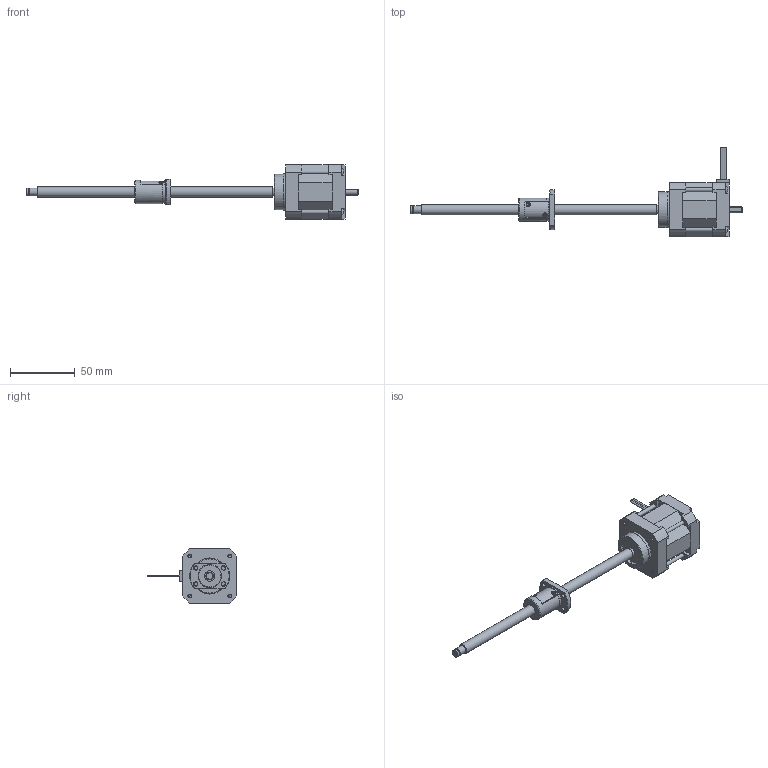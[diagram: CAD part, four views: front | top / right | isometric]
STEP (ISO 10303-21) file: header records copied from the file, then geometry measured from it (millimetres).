
FILE_DESCRIPTION( ( 'STEP AP214' ), ' ' );
FILE_NAME( 'p:/temp/worker_1/3260_1020/app_90_12017090514310822104304260eae72_000000_00_00_000000/format_0/TMB0805(75).stp', '2017-09-05T12:31:08', ( '' ), ( '' ), ' ', 'PARTsolutions', ' ' );
FILE_SCHEMA( ( 'AUTOMOTIVE_DESIGN { 1 0 10303 214 1 1 1 1 }' ) );
Length unit declared in the file: millimetre
Products named in the file (3): TMB0805(75); _TMB0805 (0)motor; _TMB0805 (75)nut
Assembly tree (2 placements, depth 2):
  TMB0805(75)
    _TMB0805 (0)motor
    _TMB0805 (75)nut
Bounding box: 257 x 69.5 x 42 mm (x, y, z)
Volume: 91888.7 mm3; surface area: 22111.7 mm2
Topology: 2 solids, 2 shells, 229 faces, 611 edges, 407 vertices
Faces by surface type: plane 153, cylinder 56, cone 16, bspline 4
Full cylindrical faces by diameter (mm): 1.5 x3, 2.459 x4, 3 x4, 3.3 x2, 3.4 x4, 5.5 x4, 5.7 x1, 6 x2, 6.6 x1, 8 x2, 17.7 x1, 18 x1, 20 x1, 27.5 x1, 28 x1
Entity records: 8935 total; most frequent: CARTESIAN_POINT 1649, ORIENTED_EDGE 1078, DIRECTION 1059, EDGE_CURVE 539, VERTEX_POINT 386, LINE 355, VECTOR 355, AXIS2_PLACEMENT_3D 352
